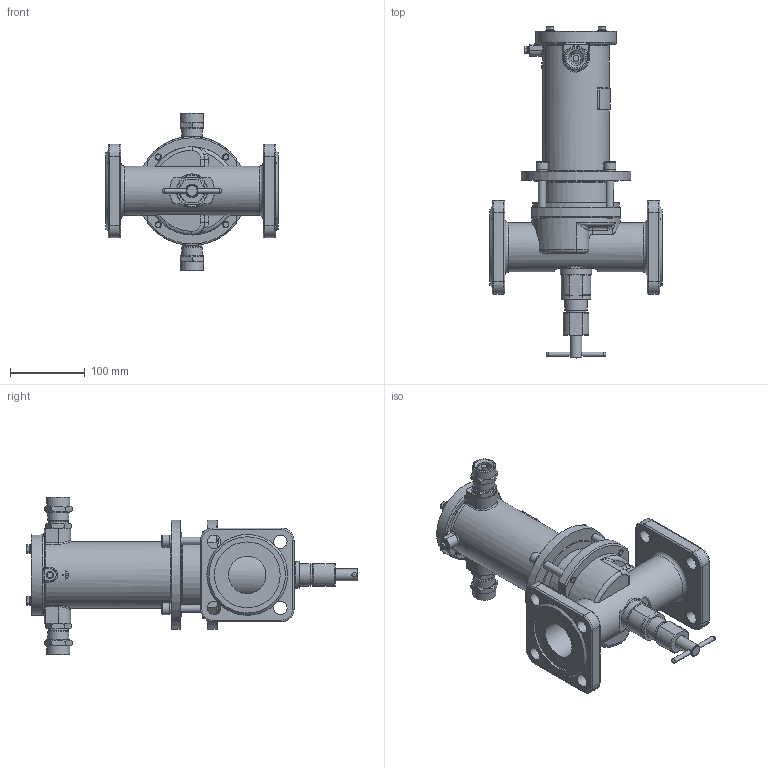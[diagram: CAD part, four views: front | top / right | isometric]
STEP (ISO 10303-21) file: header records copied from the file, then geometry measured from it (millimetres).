
FILE_DESCRIPTION(('STEP AP203'), '1');
FILE_NAME('捇迕-玿 DN50PN25.stp', '2018-11-21T06:36:21', ('u'), ($), 'ASCON STEP Converter 1.3', 'Kompas 3D', '');
FILE_SCHEMA(('CONFIG_CONTROL_DESIGN','SUPPORT_RESOURCE_SCHEMA'));
Length unit declared in the file: millimetre
Products named in the file (1): 15
Bounding box: 230 x 443.7 x 211 mm (x, y, z)
Volume: 1818785.3 mm3; surface area: 444570.3 mm2
Topology: 2 solids, 19 shells, 1976 faces, 5242 edges, 3392 vertices
Faces by surface type: cylinder 1012, plane 728, cone 128, torus 49, bspline 39, extrusion 16, sphere 4
Full cylindrical faces by diameter (mm): 3.5 x2, 4.134 x1, 4.917 x4, 5 x1, 6 x10, 6.5 x4, 8 x8, 8.2 x1, 8.376 x4, 10 x5, 11 x5, 12 x4, 13 x2, 16 x6, 17 x2, 18 x9, 20 x4, 20.9 x1, 22 x2, 22.376 x2, 23 x1, 23.5 x2, 24 x2, 24.5 x2, 26 x4, 26.376 x2, 27.8 x1, 28 x3, 28.5 x2, 30 x2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
Entity records: 76377 total; most frequent: CARTESIAN_POINT 26107, DIRECTION 10926, ORIENTED_EDGE 10430, EDGE_CURVE 5215, AXIS2_PLACEMENT_3D 4197, VERTEX_POINT 3392, VECTOR 2532, LINE 2516
